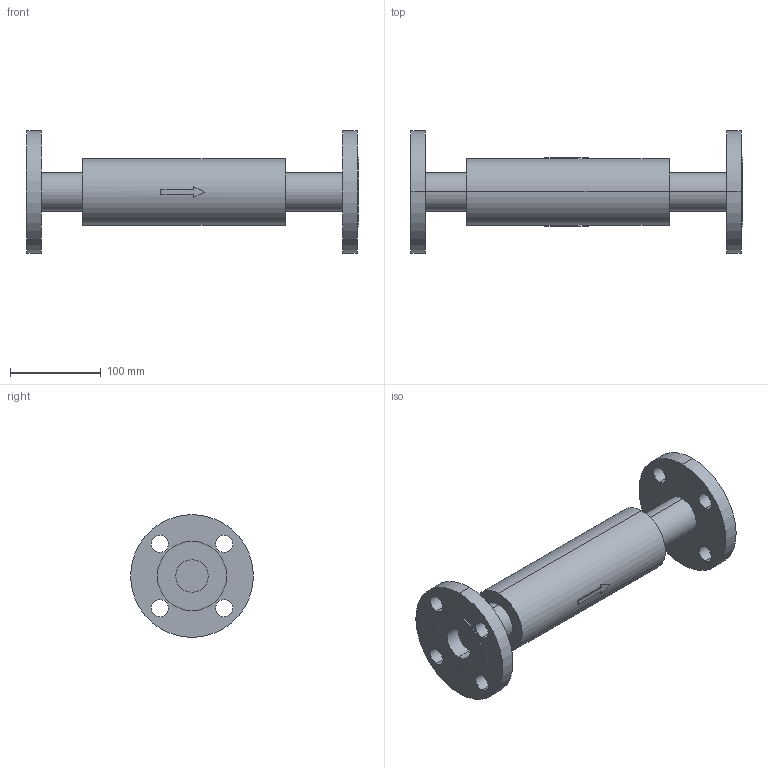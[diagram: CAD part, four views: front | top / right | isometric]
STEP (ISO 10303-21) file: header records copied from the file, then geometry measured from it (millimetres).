
FILE_DESCRIPTION( (''), '2;1');
FILE_NAME ('PC1276.11140.EB-1J 32A_691.stp','2025-06-09T15:34:24',(''),(''),'spGate 20.6.3 (****-****-****-****)','','');
FILE_SCHEMA (('AUTOMOTIVE_DESIGN'));
Length unit declared in the file: millimetre
Bounding box: 365 x 135 x 135 mm (x, y, z)
Volume: 1489589 mm3; surface area: 146896.9 mm2
Topology: 1 solids, 1 shells, 60 faces, 146 edges, 98 vertices
Faces by surface type: cylinder 34, plane 26
Entity records: 2989 total; most frequent: CARTESIAN_POINT 346, DIRECTION 304, ORIENTED_EDGE 292, COLOUR_RGB 207, PRESENTATION_STYLE_ASSIGNMENT 207, STYLED_ITEM 207, EDGE_CURVE 146, DRAUGHTING_PRE_DEFINED_CURVE_FONT 146
